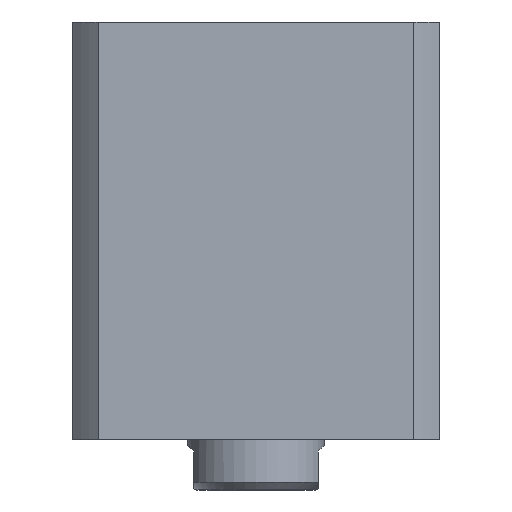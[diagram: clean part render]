
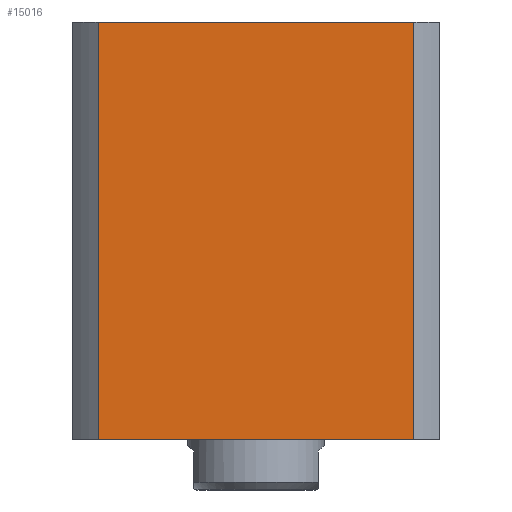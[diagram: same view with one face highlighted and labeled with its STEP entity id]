
A CAD part, front view. The second image highlights one B-rep face of the part: STEP entity #15016.
In plain terms, the highlighted planar face has unit normal (0, -1, 0) as drawn and (0, 1, 0) by its records, which use the part's own axes.
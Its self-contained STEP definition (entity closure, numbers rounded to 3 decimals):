
#392 = ORIENTED_EDGE ( 'NONE', *, *, #5020, .F. ) ;
#749 = LINE ( 'NONE', #5470, #14073 ) ;
#1115 = LINE ( 'NONE', #17804, #8016 ) ;
#1312 = VECTOR ( 'NONE', #17738, 1000. ) ;
#1316 = DIRECTION ( 'NONE',  ( -1., 0., 0. ) ) ;
#2753 = PLANE ( 'NONE',  #11281 ) ;
#2985 = CARTESIAN_POINT ( 'NONE',  ( -40.435, 47., 0. ) ) ;
#3109 = FACE_OUTER_BOUND ( 'NONE', #5062, .T. ) ;
#3577 = EDGE_CURVE ( 'NONE', #13232, #3697, #1115, .T. ) ;
#3697 = VERTEX_POINT ( 'NONE', #2985 ) ;
#5020 = EDGE_CURVE ( 'NONE', #5487, #3697, #12260, .T. ) ;
#5062 = EDGE_LOOP ( 'NONE', ( #14790, #17159, #392, #11068 ) ) ;
#5282 = LINE ( 'NONE', #8463, #5725 ) ;
#5470 = CARTESIAN_POINT ( 'NONE',  ( -47., 47., 107. ) ) ;
#5487 = VERTEX_POINT ( 'NONE', #17045 ) ;
#5591 = CARTESIAN_POINT ( 'NONE',  ( -47., 47., 107. ) ) ;
#5725 = VECTOR ( 'NONE', #16684, 1000. ) ;
#6051 = CARTESIAN_POINT ( 'NONE',  ( 40.435, 47., 107. ) ) ;
#8016 = VECTOR ( 'NONE', #12400, 1000. ) ;
#8154 = CARTESIAN_POINT ( 'NONE',  ( -40.435, 47., -5893. ) ) ;
#8362 = DIRECTION ( 'NONE',  ( 0., 0., -1. ) ) ;
#8463 = CARTESIAN_POINT ( 'NONE',  ( 40.435, 47., -5893. ) ) ;
#10662 = VERTEX_POINT ( 'NONE', #6051 ) ;
#11068 = ORIENTED_EDGE ( 'NONE', *, *, #14949, .F. ) ;
#11281 = AXIS2_PLACEMENT_3D ( 'NONE', #5591, #16590, #8362 ) ;
#12260 = LINE ( 'NONE', #8154, #1312 ) ;
#12400 = DIRECTION ( 'NONE',  ( -1., 0., 0. ) ) ;
#12820 = EDGE_CURVE ( 'NONE', #13232, #10662, #5282, .T. ) ;
#13104 = CARTESIAN_POINT ( 'NONE',  ( 40.435, 47., 0. ) ) ;
#13232 = VERTEX_POINT ( 'NONE', #13104 ) ;
#14073 = VECTOR ( 'NONE', #1316, 1000. ) ;
#14790 = ORIENTED_EDGE ( 'NONE', *, *, #12820, .F. ) ;
#14949 = EDGE_CURVE ( 'NONE', #10662, #5487, #749, .T. ) ;
#15016 = ADVANCED_FACE ( 'NONE', ( #3109 ), #2753, .F. ) ;
#16590 = DIRECTION ( 'NONE',  ( 0., -1., 0. ) ) ;
#16684 = DIRECTION ( 'NONE',  ( 0., 0., 1. ) ) ;
#17045 = CARTESIAN_POINT ( 'NONE',  ( -40.435, 47., 107. ) ) ;
#17159 = ORIENTED_EDGE ( 'NONE', *, *, #3577, .T. ) ;
#17738 = DIRECTION ( 'NONE',  ( 0., 0., -1. ) ) ;
#17804 = CARTESIAN_POINT ( 'NONE',  ( -47., 47., 0. ) ) ;
